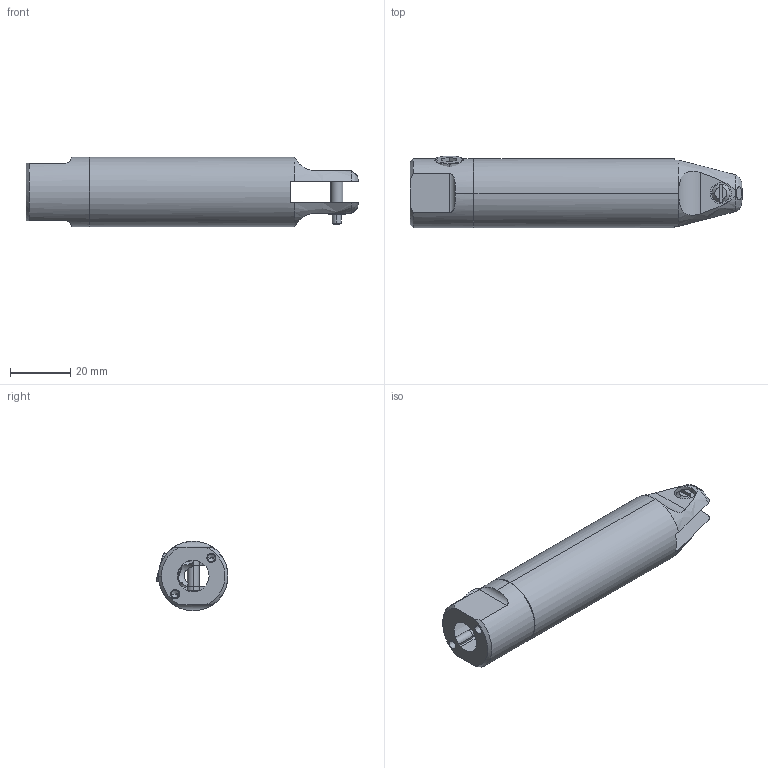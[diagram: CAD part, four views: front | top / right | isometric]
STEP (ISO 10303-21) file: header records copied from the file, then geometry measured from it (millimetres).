
FILE_DESCRIPTION (( 'STEP AP214' ), '1' );
FILE_NAME ('GT-NR3.STEP', '2019-11-28T00:50:54', ( '微软用户' ), ( '微软中国' ), 'SwSTEP 2.0', 'SolidWorks 2016', '' );
FILE_SCHEMA (( 'AUTOMOTIVE_DESIGN' ));
Length unit declared in the file: millimetre
Products named in the file (1): GT-NR3
Bounding box: 110 x 23.82 x 23 mm (x, y, z)
Surface area: 9731.3 mm2 (no closed solid volume)
Topology: 0 solids, 4 shells, 122 faces, 299 edges, 190 vertices
Faces by surface type: plane 49, cone 36, cylinder 34, bspline 3
Entity records: 4593 total; most frequent: CARTESIAN_POINT 1767, DIRECTION 568, ORIENTED_EDGE 563, EDGE_CURVE 293, AXIS2_PLACEMENT_3D 234, VERTEX_POINT 190, EDGE_LOOP 142, ADVANCED_FACE 122
